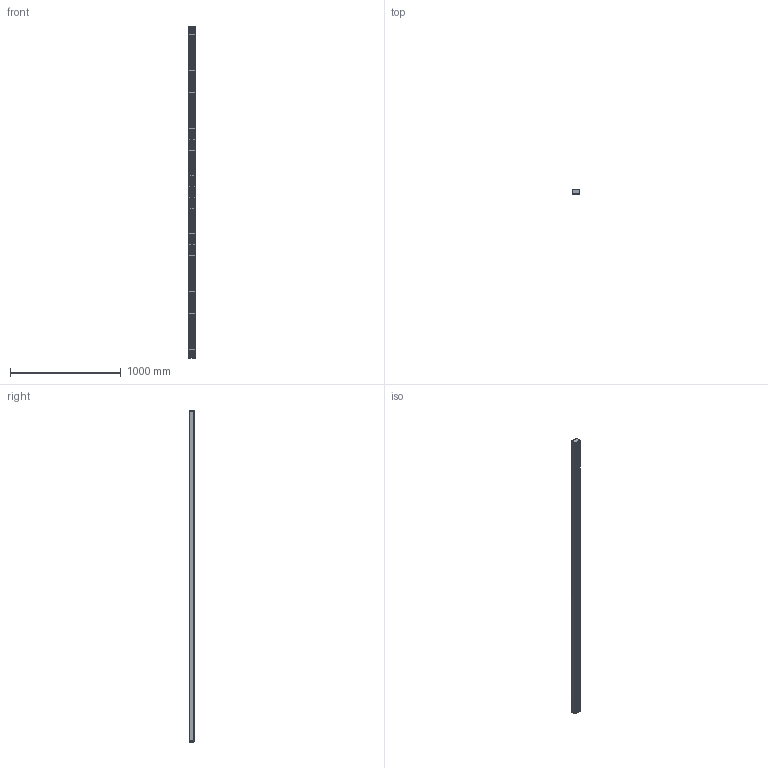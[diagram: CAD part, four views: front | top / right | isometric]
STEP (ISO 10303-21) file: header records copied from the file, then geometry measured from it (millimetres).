
FILE_DESCRIPTION(/* description */ (''),/* implementation_level */ '2;1');
FILE_NAME(/* name */ 'BINGO_LUMI_SYSTEM_GDO_BL13.stp',/* time_stamp */ '2025-10-01T14:03:28+02:00',/* author */ ('gian.noche'),/* organization */ (''),/* preprocessor_version */ 'ST-DEVELOPER v19.2',/* originating_system */ 'Autodesk Inventor 2023',/* authorisation */ '');
FILE_SCHEMA (('AUTOMOTIVE_DESIGN { 1 0 10303 214 3 1 1 }'));
Products named in the file (1): IDP_27_BINGO_LUMI_SYSTEM_3000_Semplifica_1
Bounding box: 65 x 47.82 x 3001 mm (x, y, z)
Volume: 1243157.7 mm3; surface area: 1035533.3 mm2
Topology: 1 solids, 1 shells, 1825 faces, 4029 edges, 2584 vertices
Faces by surface type: plane 661, cylinder 612, torus 384, bspline 168
Full cylindrical faces by diameter (mm): 15 x360
Entity records: 62964 total; most frequent: CARTESIAN_POINT 20615, DIRECTION 10071, ORIENTED_EDGE 8062, AXIS2_PLACEMENT_3D 4436, EDGE_CURVE 4031, VERTEX_POINT 2584, CIRCLE 2230, EDGE_LOOP 2203
